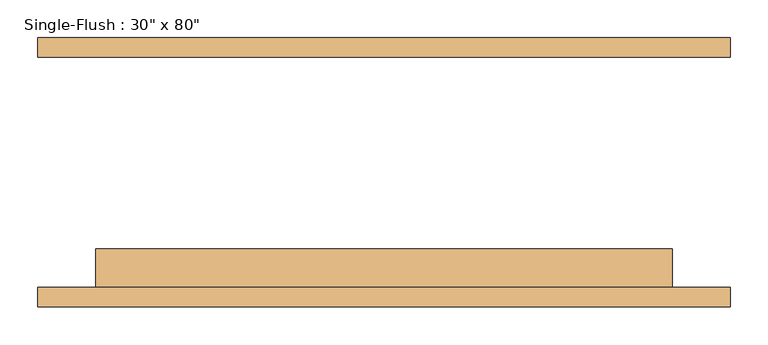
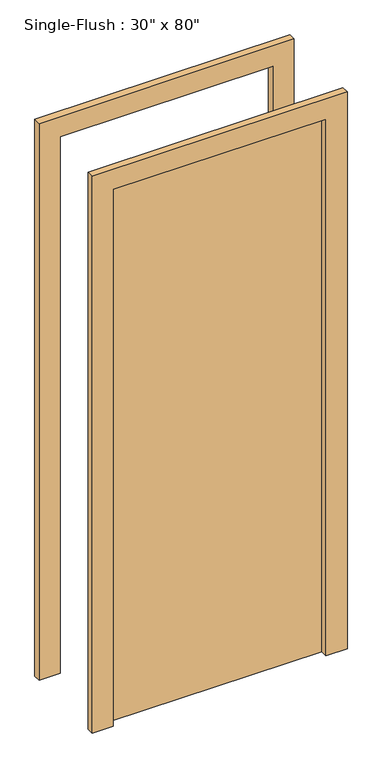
"""IFC4 building model written with IfcOpenShell, lengths in millimetres: door geometry."""

from ifc_helpers import new_model, si_unit, frame, origin, origin_with_axes, place, context, project, spatial, polyline, outline, extrude, source, transform, mapped, element, save


def door_d9178966(model_context):
    return source(origin(), model_context, "Body", "SweptSolid", [
        extrude(outline(polyline([(2108.2, -457.2), (0.0, -457.2), (0.0, -381.0), (2032.0, -381.0), (2032.0, 381.0), (0.0, 381.0), (0.0, 457.2), (2108.2, 457.2), (2108.2, -457.2)])), frame((0.0, -177.8, 0.0), z_axis=(0.0, 1.0, 0.0), x_axis=(0.0, 0.0, 1.0)), (0.0, 0.0, 1.0), 25.4),
        extrude(outline(polyline([(2108.2, 457.2), (2108.2, -457.2), (0.0, -457.2), (0.0, -381.0), (2032.0, -381.0), (2032.0, 381.0), (0.0, 381.0), (0.0, 457.2), (2108.2, 457.2)])), frame((0.0, 152.4, 0.0), z_axis=(0.0, 1.0, 0.0), x_axis=(0.0, 0.0, 1.0)), (0.0, 0.0, 1.0), 25.4),
        extrude(outline(polyline([(381.0, -101.6), (381.0, -152.4), (-381.0, -152.4), (-381.0, -101.6), (381.0, -101.6)])), origin_with_axes(), (0.0, 0.0, 1.0), 2032.0),
    ])


if __name__ == "__main__":
    model = new_model("IFC4")
    model_context = context("Model", 3, world=origin())
    ifc_project = project(units=[si_unit("LENGTHUNIT", "METRE", prefix="MILLI")], contexts=[model_context])
    site = spatial("IfcSite", under=ifc_project)
    building = spatial("IfcBuilding", under=site)
    placement = place(None, origin())
    door_shape = door_d9178966(model_context)
    element("IfcDoor", 1, ObjectType="Single-Flush : 30\" x 80\"", at=placement, inside=building, context=model_context, shape_type="MappedRepresentation", body=[
        mapped(door_shape, transform((0.0, 0.0, 0.0), x_axis=(1.0, 0.0, 0.0), y_axis=(0.0, 1.0, 0.0), z_axis=(0.0, 0.0, 1.0))),
    ])
    save(model, "model.ifc")
